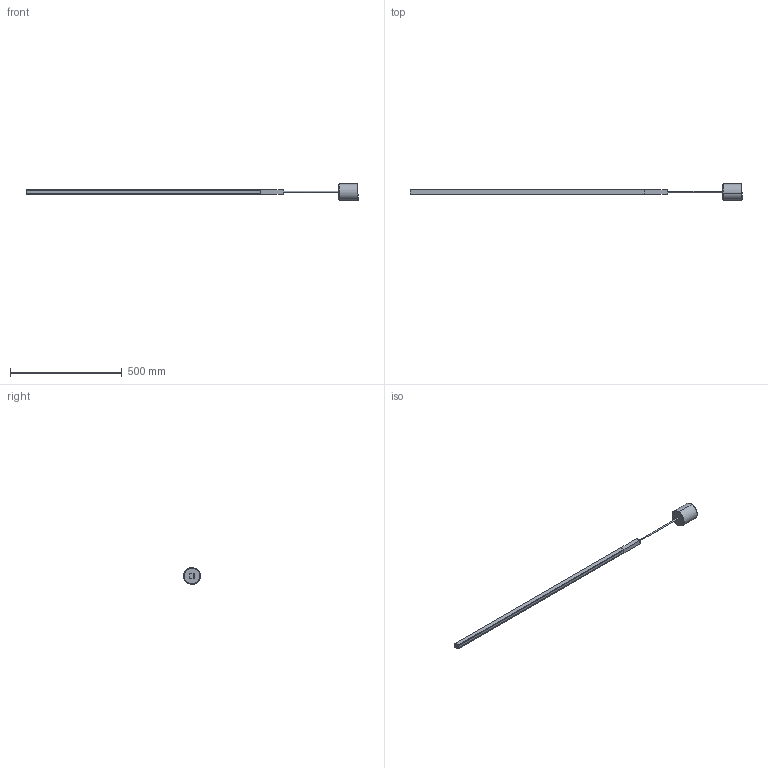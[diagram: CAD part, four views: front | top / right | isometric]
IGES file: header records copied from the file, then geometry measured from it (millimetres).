
Start section: SolidWorks IGES file using analytic representation for surfaces
Global section: file name: C:\Users\tungari.NEMOLIGHTING\Desktop\3D\PENDANT\3D_LINESCAPES_V\DEFEATURE_3D_LINESCAPES_V\3D_LINESCAPES_V.IGS; native system: SolidWorks 2016; preprocessor: SolidWorks 2016; author: tungari; date: 180228.145450; units: millimetre
Bounding box: 1482.5 x 74.95 x 74.98 mm (x, y, z)
Surface area: 175898.9 mm2 (no closed solid volume)
Topology: 0 solids, 0 shells, 67 faces, 522 edges, 522 vertices
Faces by surface type: bspline 55, revolution 12
